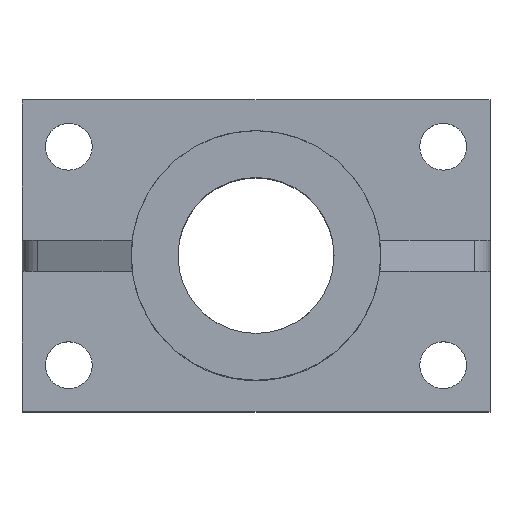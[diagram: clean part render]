
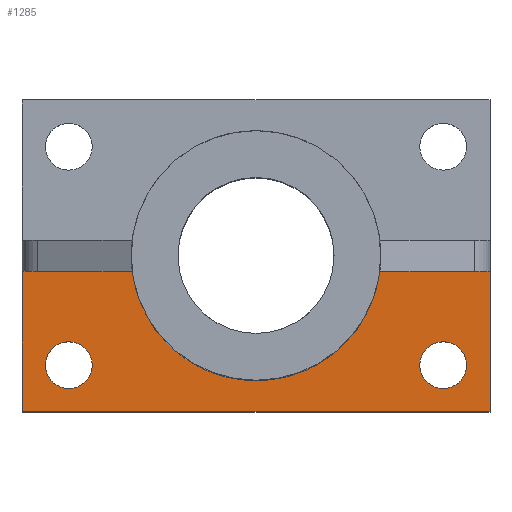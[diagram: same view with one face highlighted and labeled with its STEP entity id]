
A CAD part, top view. The second image highlights one B-rep face of the part: STEP entity #1285.
In plain terms, the highlighted planar face has unit normal (0, 0, 1).
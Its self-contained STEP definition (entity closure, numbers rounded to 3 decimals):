
#188=CARTESIAN_POINT('',(-39.686,-5.,0.));
#189=VERTEX_POINT('',#188);
#196=CARTESIAN_POINT('',(39.686,-5.,0.));
#197=VERTEX_POINT('',#196);
#198=CARTESIAN_POINT('',(0.,0.,0.));
#199=DIRECTION('',(0.,0.,1.));
#200=DIRECTION('',(-1.,0.,0.));
#201=AXIS2_PLACEMENT_3D('',#198,#199,#200);
#202=CIRCLE('',#201,40.);
#203=EDGE_CURVE('',#189,#197,#202,.T.);
#779=CARTESIAN_POINT('',(60.,-50.,0.));
#780=VERTEX_POINT('',#779);
#781=CARTESIAN_POINT('',(75.,-50.,0.));
#782=VERTEX_POINT('',#781);
#783=CARTESIAN_POINT('',(60.,-50.,0.));
#784=DIRECTION('',(1.,0.,-0.));
#785=VECTOR('',#784,15.);
#786=LINE('',#783,#785);
#787=EDGE_CURVE('',#780,#782,#786,.T.);
#789=CARTESIAN_POINT('',(-60.,-50.,0.));
#790=VERTEX_POINT('',#789);
#791=CARTESIAN_POINT('',(-60.,-50.,0.));
#792=DIRECTION('',(1.,-0.,0.));
#793=VECTOR('',#792,120.);
#794=LINE('',#791,#793);
#795=EDGE_CURVE('',#790,#780,#794,.T.);
#797=CARTESIAN_POINT('',(-75.,-50.,0.));
#798=VERTEX_POINT('',#797);
#799=CARTESIAN_POINT('',(-75.,-50.,0.));
#800=DIRECTION('',(1.,0.,-0.));
#801=VECTOR('',#800,15.);
#802=LINE('',#799,#801);
#803=EDGE_CURVE('',#798,#790,#802,.T.);
#869=CARTESIAN_POINT('',(75.,-5.,0.));
#870=VERTEX_POINT('',#869);
#877=CARTESIAN_POINT('',(75.,-35.,0.));
#878=VERTEX_POINT('',#877);
#879=CARTESIAN_POINT('',(75.,-35.,0.));
#880=DIRECTION('',(0.,1.,0.));
#881=VECTOR('',#880,30.);
#882=LINE('',#879,#881);
#883=EDGE_CURVE('',#878,#870,#882,.T.);
#885=CARTESIAN_POINT('',(75.,-50.,0.));
#886=DIRECTION('',(0.,1.,0.));
#887=VECTOR('',#886,15.);
#888=LINE('',#885,#887);
#889=EDGE_CURVE('',#782,#878,#888,.T.);
#1007=CARTESIAN_POINT('',(67.5,-35.,0.));
#1008=VERTEX_POINT('',#1007);
#1017=CARTESIAN_POINT('',(52.5,-35.,0.));
#1018=VERTEX_POINT('',#1017);
#1019=CARTESIAN_POINT('',(60.,-35.,0.));
#1020=DIRECTION('',(0.,0.,1.));
#1021=DIRECTION('',(-1.,0.,0.));
#1022=AXIS2_PLACEMENT_3D('',#1019,#1020,#1021);
#1023=CIRCLE('',#1022,7.5);
#1024=EDGE_CURVE('',#1008,#1018,#1023,.T.);
#1026=CARTESIAN_POINT('',(60.,-35.,0.));
#1027=DIRECTION('',(0.,0.,1.));
#1028=DIRECTION('',(-1.,0.,0.));
#1029=AXIS2_PLACEMENT_3D('',#1026,#1027,#1028);
#1030=CIRCLE('',#1029,7.5);
#1031=EDGE_CURVE('',#1018,#1008,#1030,.T.);
#1058=CARTESIAN_POINT('',(-52.5,-35.,0.));
#1059=VERTEX_POINT('',#1058);
#1068=CARTESIAN_POINT('',(-67.5,-35.,0.));
#1069=VERTEX_POINT('',#1068);
#1070=CARTESIAN_POINT('',(-60.,-35.,0.));
#1071=DIRECTION('',(0.,0.,1.));
#1072=DIRECTION('',(-1.,0.,0.));
#1073=AXIS2_PLACEMENT_3D('',#1070,#1071,#1072);
#1074=CIRCLE('',#1073,7.5);
#1075=EDGE_CURVE('',#1059,#1069,#1074,.T.);
#1077=CARTESIAN_POINT('',(-60.,-35.,0.));
#1078=DIRECTION('',(0.,0.,1.));
#1079=DIRECTION('',(-1.,0.,0.));
#1080=AXIS2_PLACEMENT_3D('',#1077,#1078,#1079);
#1081=CIRCLE('',#1080,7.5);
#1082=EDGE_CURVE('',#1069,#1059,#1081,.T.);
#1109=CARTESIAN_POINT('',(-75.,-35.,0.));
#1110=VERTEX_POINT('',#1109);
#1111=CARTESIAN_POINT('',(-75.,-35.,0.));
#1112=DIRECTION('',(-0.,-1.,0.));
#1113=VECTOR('',#1112,15.);
#1114=LINE('',#1111,#1113);
#1115=EDGE_CURVE('',#1110,#798,#1114,.T.);
#1117=CARTESIAN_POINT('',(-75.,-5.,0.));
#1118=VERTEX_POINT('',#1117);
#1119=CARTESIAN_POINT('',(-75.,-5.,0.));
#1120=DIRECTION('',(-0.,-1.,0.));
#1121=VECTOR('',#1120,30.);
#1122=LINE('',#1119,#1121);
#1123=EDGE_CURVE('',#1118,#1110,#1122,.T.);
#1250=CARTESIAN_POINT('',(0.,0.,0.));
#1251=DIRECTION('',(0.,0.,1.));
#1252=DIRECTION('',(-1.,0.,0.));
#1253=AXIS2_PLACEMENT_3D('',#1250,#1251,#1252);
#1254=PLANE('',#1253);
#1255=CARTESIAN_POINT('',(39.686,-5.,0.));
#1256=DIRECTION('',(1.,0.,-0.));
#1257=VECTOR('',#1256,35.314);
#1258=LINE('',#1255,#1257);
#1259=EDGE_CURVE('',#197,#870,#1258,.T.);
#1260=ORIENTED_EDGE('',*,*,#1259,.F.);
#1261=ORIENTED_EDGE('',*,*,#203,.F.);
#1262=CARTESIAN_POINT('',(-75.,-5.,0.));
#1263=DIRECTION('',(1.,0.,-0.));
#1264=VECTOR('',#1263,35.314);
#1265=LINE('',#1262,#1264);
#1266=EDGE_CURVE('',#1118,#189,#1265,.T.);
#1267=ORIENTED_EDGE('',*,*,#1266,.F.);
#1268=ORIENTED_EDGE('',*,*,#1123,.T.);
#1269=ORIENTED_EDGE('',*,*,#1115,.T.);
#1270=ORIENTED_EDGE('',*,*,#803,.T.);
#1271=ORIENTED_EDGE('',*,*,#795,.T.);
#1272=ORIENTED_EDGE('',*,*,#787,.T.);
#1273=ORIENTED_EDGE('',*,*,#889,.T.);
#1274=ORIENTED_EDGE('',*,*,#883,.T.);
#1275=EDGE_LOOP('',(#1260,#1261,#1267,#1268,#1269,#1270,#1271,#1272,#1273,#1274));
#1276=FACE_BOUND('',#1275,.T.);
#1277=ORIENTED_EDGE('',*,*,#1075,.F.);
#1278=ORIENTED_EDGE('',*,*,#1082,.F.);
#1279=EDGE_LOOP('',(#1277,#1278));
#1280=FACE_BOUND('',#1279,.T.);
#1281=ORIENTED_EDGE('',*,*,#1024,.F.);
#1282=ORIENTED_EDGE('',*,*,#1031,.F.);
#1283=EDGE_LOOP('',(#1281,#1282));
#1284=FACE_BOUND('',#1283,.T.);
#1285=ADVANCED_FACE('',(#1276,#1280,#1284),#1254,.T.);
